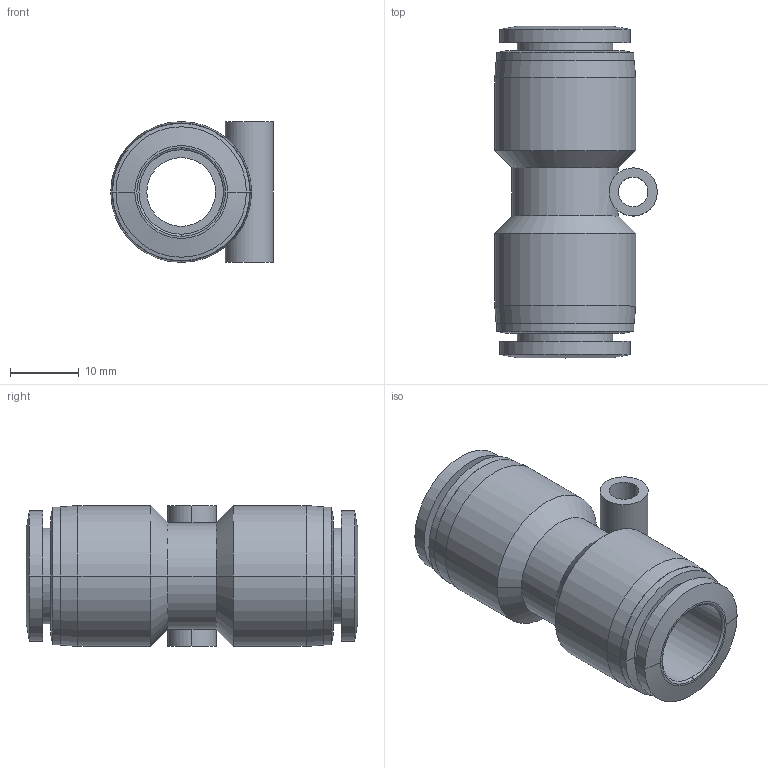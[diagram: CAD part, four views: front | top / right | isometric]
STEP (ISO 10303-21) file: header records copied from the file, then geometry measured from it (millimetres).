
FILE_DESCRIPTION (( 'STEP AP203' ), '1' );
FILE_NAME ('FH12-00.STEP', '2020-05-13T10:58:10', ( '' ), ( '' ), 'SwSTEP 2.0', 'SolidWorks 2019', '' );
FILE_SCHEMA (( 'CONFIG_CONTROL_DESIGN' ));
Length unit declared in the file: millimetre
Products named in the file (1): FH12-00
Bounding box: 23.65 x 48.3 x 20.5 mm (x, y, z)
Volume: 8581.1 mm3; surface area: 6449 mm2
Topology: 1 solids, 1 shells, 60 faces, 130 edges, 80 vertices
Faces by surface type: cylinder 28, cone 16, plane 12, bspline 4
Entity records: 2042 total; most frequent: CARTESIAN_POINT 614, DIRECTION 312, ORIENTED_EDGE 260, AXIS2_PLACEMENT_3D 133, EDGE_CURVE 130, VERTEX_POINT 80, CIRCLE 76, EDGE_LOOP 72
